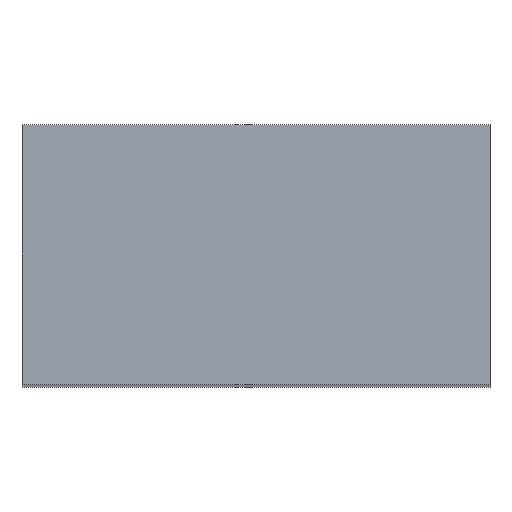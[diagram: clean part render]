
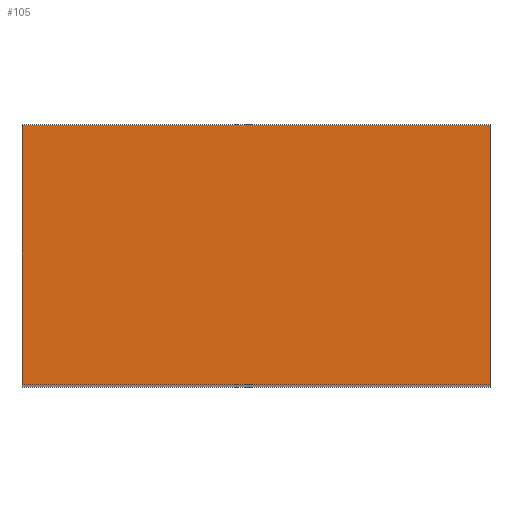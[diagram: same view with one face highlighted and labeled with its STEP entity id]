
A CAD part, top view. The second image highlights one B-rep face of the part: STEP entity #105.
In plain terms, the highlighted planar face has unit normal (0, 0, 1).
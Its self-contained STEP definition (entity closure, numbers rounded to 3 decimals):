
#19=FACE_OUTER_BOUND('',#25,.T.);
#25=EDGE_LOOP('',(#84,#85,#86,#87));
#29=LINE('',#160,#41);
#37=LINE('',#175,#49);
#38=LINE('',#177,#50);
#39=LINE('',#178,#51);
#41=VECTOR('',#133,10.);
#49=VECTOR('',#145,10.);
#50=VECTOR('',#148,10.);
#51=VECTOR('',#149,10.);
#53=VERTEX_POINT('',#157);
#54=VERTEX_POINT('',#159);
#58=VERTEX_POINT('',#171);
#59=VERTEX_POINT('',#173);
#61=EDGE_CURVE('',#53,#54,#29,.T.);
#69=EDGE_CURVE('',#58,#59,#37,.T.);
#70=EDGE_CURVE('',#53,#58,#38,.T.);
#71=EDGE_CURVE('',#54,#59,#39,.T.);
#84=ORIENTED_EDGE('',*,*,#70,.T.);
#85=ORIENTED_EDGE('',*,*,#69,.T.);
#86=ORIENTED_EDGE('',*,*,#71,.F.);
#87=ORIENTED_EDGE('',*,*,#61,.F.);
#99=PLANE('',#125);
#105=ADVANCED_FACE('',(#19),#99,.T.);
#125=AXIS2_PLACEMENT_3D('',#176,#146,#147);
#133=DIRECTION('',(0.,-1.,0.));
#145=DIRECTION('',(0.,-1.,0.));
#146=DIRECTION('center_axis',(0.,0.,1.));
#147=DIRECTION('ref_axis',(-1.,0.,0.));
#148=DIRECTION('',(-1.,0.,0.));
#149=DIRECTION('',(-1.,0.,0.));
#157=CARTESIAN_POINT('',(180.,0.,660.));
#159=CARTESIAN_POINT('',(180.,-100.,660.));
#160=CARTESIAN_POINT('',(180.,0.,660.));
#171=CARTESIAN_POINT('',(0.,0.,660.));
#173=CARTESIAN_POINT('',(0.,-100.,660.));
#175=CARTESIAN_POINT('',(0.,0.,660.));
#176=CARTESIAN_POINT('Origin',(180.,0.,660.));
#177=CARTESIAN_POINT('',(180.,0.,660.));
#178=CARTESIAN_POINT('',(180.,-100.,660.));
